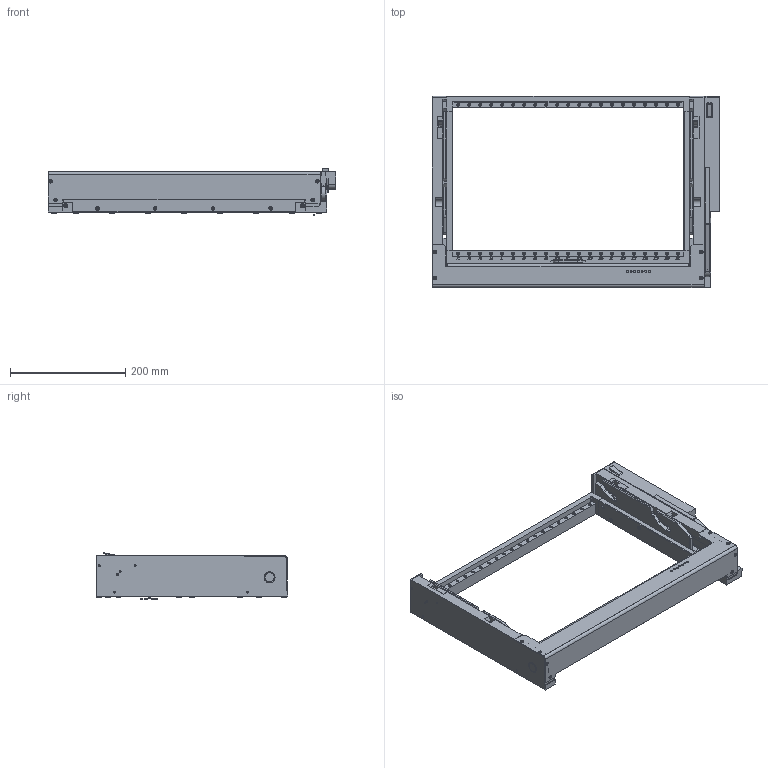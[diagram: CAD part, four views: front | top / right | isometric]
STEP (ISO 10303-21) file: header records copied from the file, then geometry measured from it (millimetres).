
FILE_DESCRIPTION((''),'2;1');
FILE_NAME('C:\old_Drawings\shrinkwrapped website .stp files\7511211-26D-STP.stp','2011-09-16T11:28:25',('GaryRobinson'),(''),'Autodesk Inventor 2011','Autodesk Inventor 2011','');
FILE_SCHEMA(('AUTOMOTIVE_DESIGN { 1 0 10303 214 1 1 1 1 }'));
Length unit declared in the file: inch
Products named in the file (1): 7511211-26D-STP
Bounding box: 498.6 x 330.97 x 80.44 mm (x, y, z)
Surface area: 615310.3 mm2 (no closed solid volume)
Topology: 0 solids, 50 shells, 1926 faces, 4830 edges, 3120 vertices
Faces by surface type: plane 967, cylinder 420, cone 287, bspline 248, torus 4
Full cylindrical faces by diameter (mm): 0.013 x3, 1 x4, 1.194 x4, 2.156 x4, 2.159 x13, 2.16 x4, 2.642 x42, 2.769 x6, 3 x2, 3.175 x28, 3.2 x1, 3.3 x5, 3.302 x49, 3.536 x7, 4.166 x20, 4.496 x21, 4.763 x6, 4.8 x4, 5.207 x4, 5.994 x1, 6.35 x4, 7.137 x21, 8.001 x2, 12.598 x1, 12.713 x1, 15.875 x1, 19.05 x2, 22.352 x2, 23.813 x2
Entity records: 57063 total; most frequent: CARTESIAN_POINT 12773, ORIENTED_EDGE 8278, DIRECTION 7970, EDGE_CURVE 4139, VERTEX_POINT 2929, EDGE_LOOP 2702, AXIS2_PLACEMENT_3D 2677, VECTOR 2616
